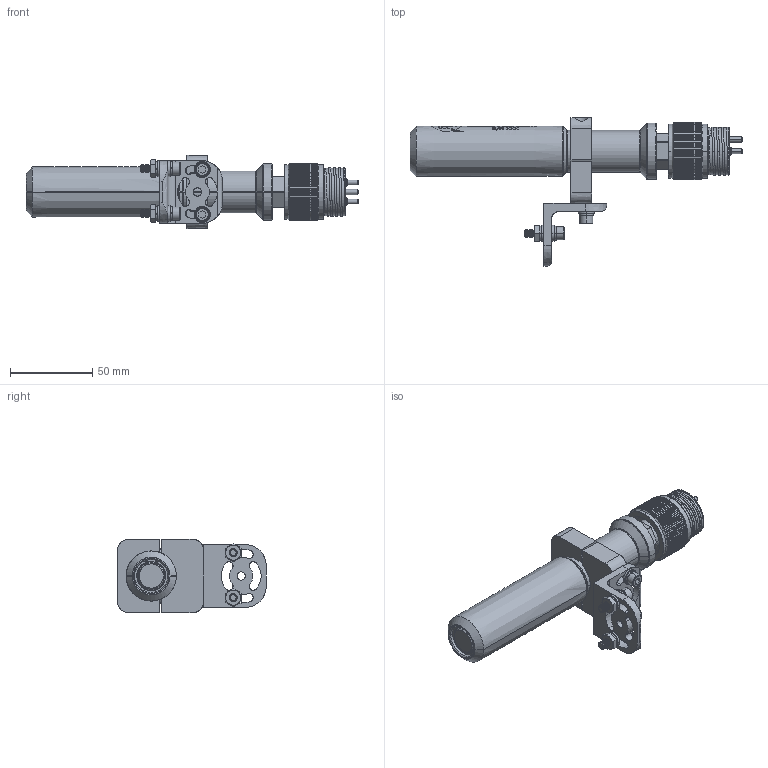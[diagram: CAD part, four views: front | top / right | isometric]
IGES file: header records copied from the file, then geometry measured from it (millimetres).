
Start section: SolidWorks IGES file using analytic representation for surfaces
Global section: file name: S:\3D_Product_Models\Lasers\SL100-BH2-0A_20190319a.IGS; native system: SolidWorks 2018; preprocessor: SolidWorks 2018; author: Jason.Buss; date: 190319.075631; units: millimetre
Bounding box: 201.68 x 90.17 x 44.45 mm (x, y, z)
Surface area: 43060 mm2 (no closed solid volume)
Topology: 0 solids, 0 shells, 878 faces, 16781 edges, 16781 vertices
Faces by surface type: revolution 471, bspline 407
